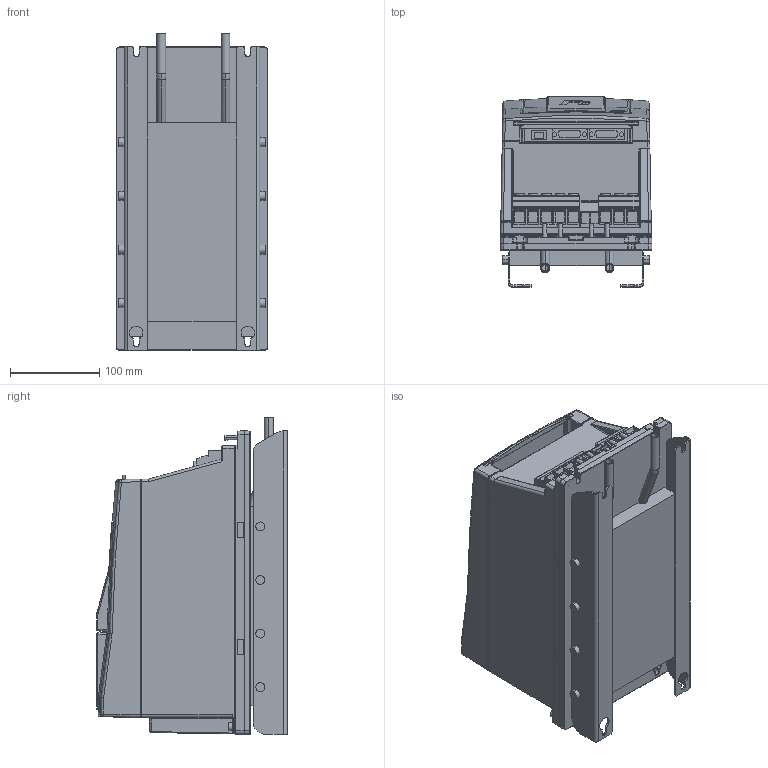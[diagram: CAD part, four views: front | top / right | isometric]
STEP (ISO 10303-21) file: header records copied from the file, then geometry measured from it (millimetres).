
FILE_DESCRIPTION (( 'STEP AP214' ), '1' );
FILE_NAME ('F6-3 TW0-A010.STEP', '2024-08-27T09:49:30', ( '' ), ( '' ), 'SwSTEP 2.0', 'SolidWorks 2022', '' );
FILE_SCHEMA (( 'AUTOMOTIVE_DESIGN' ));
Length unit declared in the file: millimetre
Products named in the file (9): Kundenmodell^10044643_000; Kundenmodell^10059764_000; Kundenmodell^10040482_000; F6-3 TW0-A010; Kundenmodell^10068344_000; 10059764_000_Blindabdeckung (Kundenmodell); 10068344_000_Leistungsteil TR0 (Kundenmodell); 10044643_000_Kundenmodell; 10040482_000_Kundenmodell
Assembly tree (8 placements, depth 4):
  F6-3 TW0-A010
    10068344_000_Leistungsteil TR0 (Kundenmodell)
      Kundenmodell^10068344_000
    10040482_000_Kundenmodell
      Kundenmodell^10040482_000
    10044643_000_Kundenmodell
      10059764_000_Blindabdeckung (Kundenmodell)
        Kundenmodell^10059764_000
      Kundenmodell^10044643_000
Bounding box: 170 x 212.9 x 355 mm (x, y, z)
Volume: 8073937.9 mm3; surface area: 636424.1 mm2
Topology: 11 solids, 12 shells, 1937 faces, 4843 edges, 2971 vertices
Faces by surface type: plane 815, cylinder 590, bspline 330, torus 81, cone 75, sphere 46
Entity records: 64929 total; most frequent: CARTESIAN_POINT 21312, ORIENTED_EDGE 9566, DIRECTION 8326, EDGE_CURVE 4783, VERTEX_POINT 2971, AXIS2_PLACEMENT_3D 2886, VECTOR 2554, LINE 2554
